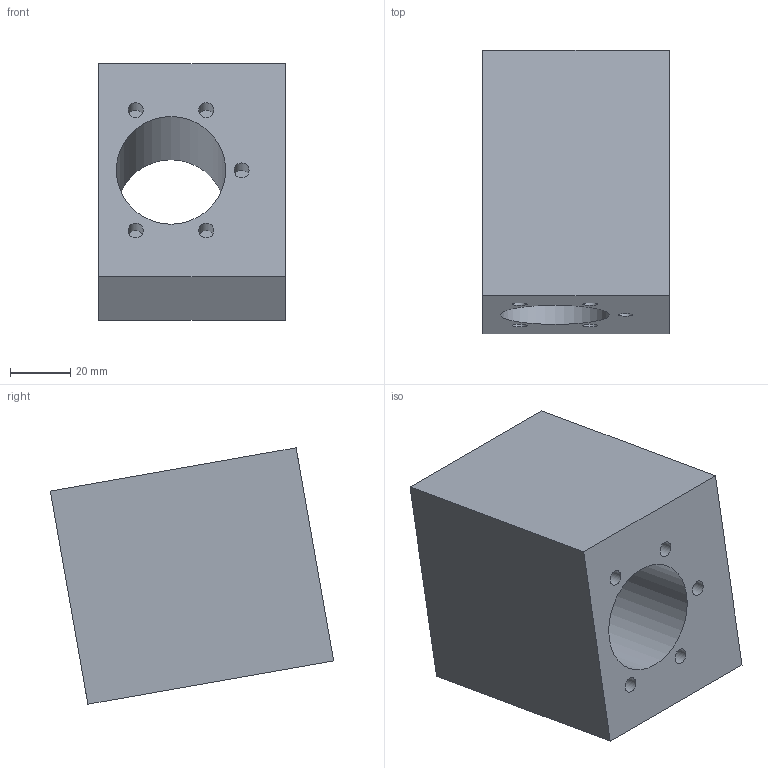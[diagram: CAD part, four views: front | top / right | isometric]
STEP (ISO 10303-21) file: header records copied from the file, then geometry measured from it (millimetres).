
FILE_DESCRIPTION(('golf model'),'2;1');
FILE_NAME('golf','',(''),(''),'golf_step_io','golf','');
FILE_SCHEMA(('AUTOMOTIVE_DESIGN { 1 0 10303 214 1 1 1 1 }'));
Length unit declared in the file: millimetre
Products named in the file (2): ASSEMBLY; z_axis.z_nut_bracket
Assembly tree (1 placements, depth 2):
  ASSEMBLY
    z_axis.z_nut_bracket
Bounding box: 62 x 94.24 x 85.32 mm (x, y, z)
Volume: 280151.2 mm3; surface area: 41219.8 mm2
Topology: 1 solids, 1 shells, 25 faces, 46 edges, 32 vertices
Faces by surface type: plane 15, cylinder 10
Full cylindrical faces by diameter (mm): 5 x5, 6.8 x4, 36.4 x1
Entity records: 584 total; most frequent: DIRECTION 106, CARTESIAN_POINT 87, ORIENTED_EDGE 64, AXIS2_PLACEMENT_3D 47, EDGE_LOOP 46, FACE_BOUND 43, EDGE_CURVE 32, VERTEX_POINT 28
